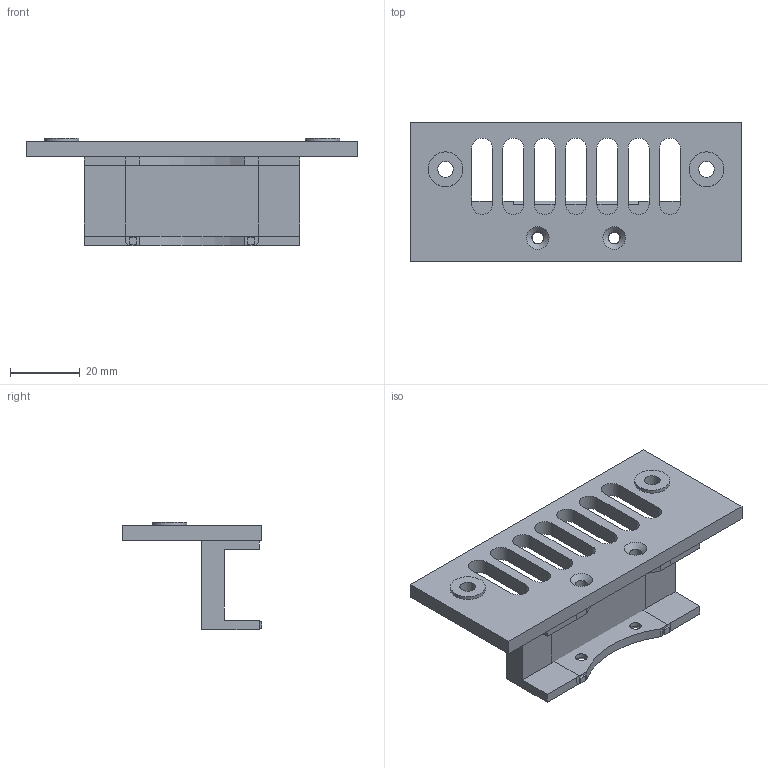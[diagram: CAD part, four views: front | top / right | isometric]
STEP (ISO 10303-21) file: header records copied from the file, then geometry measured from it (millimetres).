
FILE_DESCRIPTION(('Open CASCADE Model'),'2;1');
FILE_NAME('Open CASCADE Shape Model','2026-09-30T10:04:18',('Author'),( 'Open CASCADE'),'Open CASCADE STEP processor 7.9','Open CASCADE 7.9' ,'Unknown');
FILE_SCHEMA(('AUTOMOTIVE_DESIGN { 1 0 10303 214 1 1 1 1 }'));
Length unit declared in the file: millimetre
Products named in the file (1): Open CASCADE STEP translator 7.9 1
Bounding box: 95 x 40 x 31 mm (x, y, z)
Volume: 25767.9 mm3; surface area: 13906.3 mm2
Topology: 1 solids, 1 shells, 111 faces, 311 edges, 202 vertices
Faces by surface type: plane 78, cylinder 27, cone 6
Full cylindrical faces by diameter (mm): 3.3 x2, 3.5 x4, 4.5 x2, 10 x2
Entity records: 8540 total; most frequent: CARTESIAN_POINT 2344, DIRECTION 1139, LINE 752, VECTOR 752, ORIENTED_EDGE 622, PCURVE 622, DEFINITIONAL_REPRESENTATION 622, EDGE_CURVE 311
